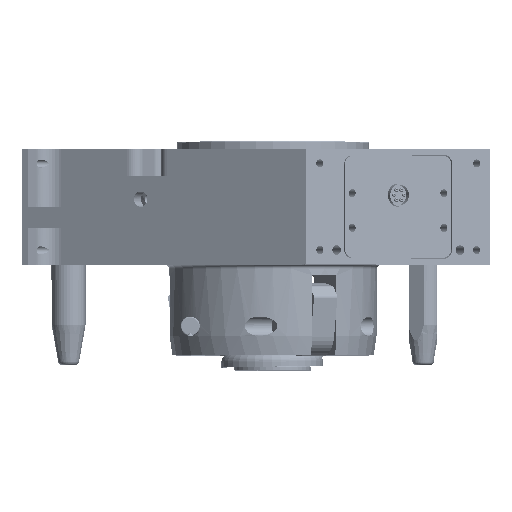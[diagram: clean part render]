
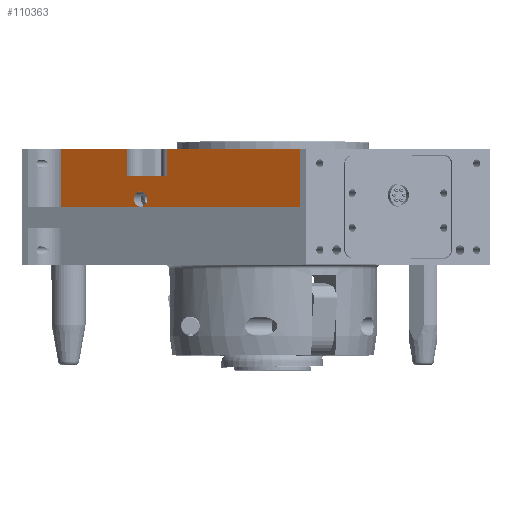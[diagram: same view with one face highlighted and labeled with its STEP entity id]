
A CAD part, top view. The second image highlights one B-rep face of the part: STEP entity #110363.
In plain terms, the highlighted planar face has unit normal (-0.5, 0, 0.866).
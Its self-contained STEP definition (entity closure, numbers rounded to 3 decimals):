
#1808 = VECTOR ( 'NONE', #139290, 1000. ) ;
#3265 = ORIENTED_EDGE ( 'NONE', *, *, #16347, .T. ) ;
#13840 = EDGE_CURVE ( 'NONE', #118554, #118554, #29705, .T. ) ;
#15144 = DIRECTION ( 'NONE',  ( 0.866, 0., 0.5 ) ) ;
#15334 = DIRECTION ( 'NONE',  ( -0.5, 0., 0.866 ) ) ;
#15360 = CARTESIAN_POINT ( 'NONE',  ( -68.583, 4., 69.79 ) ) ;
#16347 = EDGE_CURVE ( 'NONE', #42448, #16399, #39863, .T. ) ;
#16399 = VERTEX_POINT ( 'NONE', #35285 ) ;
#16968 = VECTOR ( 'NONE', #53417, 1000. ) ;
#18391 = AXIS2_PLACEMENT_3D ( 'NONE', #98614, #154858, #28509 ) ;
#18939 = LINE ( 'NONE', #75366, #85262 ) ;
#25705 = LINE ( 'NONE', #82087, #168639 ) ;
#26743 = LINE ( 'NONE', #83110, #1808 ) ;
#28509 = DIRECTION ( 'NONE',  ( -0.866, 0., -0.5 ) ) ;
#29705 = CIRCLE ( 'NONE', #132770, 4. ) ;
#35285 = CARTESIAN_POINT ( 'NONE',  ( -75.69, 30., 65.687 ) ) ;
#38543 = EDGE_CURVE ( 'NONE', #118554, #130224, #25705, .T. ) ;
#38886 = VECTOR ( 'NONE', #39610, 1000. ) ;
#39610 = DIRECTION ( 'NONE',  ( 0., 1., 0. ) ) ;
#39811 = CARTESIAN_POINT ( 'NONE',  ( -75.69, -20.966, 65.687 ) ) ;
#39813 = EDGE_CURVE ( 'NONE', #16399, #93696, #125126, .T. ) ;
#39863 = LINE ( 'NONE', #39811, #38886 ) ;
#41743 = VERTEX_POINT ( 'NONE', #58652 ) ;
#42405 = PLANE ( 'NONE',  #18391 ) ;
#42448 = VERTEX_POINT ( 'NONE', #118043 ) ;
#47846 = CARTESIAN_POINT ( 'NONE',  ( -68.583, 0., 69.79 ) ) ;
#48055 = DIRECTION ( 'NONE',  ( -0.866, 0., -0.5 ) ) ;
#53417 = DIRECTION ( 'NONE',  ( 0., 1., 0. ) ) ;
#53519 = CARTESIAN_POINT ( 'NONE',  ( -109.72, 0., 46.04 ) ) ;
#55121 = DIRECTION ( 'NONE',  ( -0.866, 0., -0.5 ) ) ;
#56098 = EDGE_CURVE ( 'NONE', #41743, #68146, #118079, .T. ) ;
#56848 = EDGE_CURVE ( 'NONE', #73368, #41743, #26743, .T. ) ;
#58652 = CARTESIAN_POINT ( 'NONE',  ( 14.988, 30., 118.04 ) ) ;
#59836 = CARTESIAN_POINT ( 'NONE',  ( -54.905, 30., 77.687 ) ) ;
#60950 = LINE ( 'NONE', #117127, #154405 ) ;
#68146 = VERTEX_POINT ( 'NONE', #59836 ) ;
#73368 = VERTEX_POINT ( 'NONE', #171118 ) ;
#75366 = CARTESIAN_POINT ( 'NONE',  ( -54.905, 16., 77.687 ) ) ;
#76443 = EDGE_CURVE ( 'NONE', #73368, #118554, #60950, .T. ) ;
#77601 = CARTESIAN_POINT ( 'NONE',  ( -54.905, 16., 77.687 ) ) ;
#82087 = CARTESIAN_POINT ( 'NONE',  ( 23.215, 0., 122.79 ) ) ;
#83110 = CARTESIAN_POINT ( 'NONE',  ( 14.988, 30., 118.04 ) ) ;
#85262 = VECTOR ( 'NONE', #131532, 1000. ) ;
#89869 = EDGE_CURVE ( 'NONE', #98868, #68146, #123392, .T. ) ;
#93234 = ORIENTED_EDGE ( 'NONE', *, *, #168363, .F. ) ;
#93696 = VERTEX_POINT ( 'NONE', #176793 ) ;
#96187 = EDGE_LOOP ( 'NONE', ( #159618, #160544, #160999, #163494, #164007, #166674, #93234, #3265, #167210, #168090 ) ) ;
#98614 = CARTESIAN_POINT ( 'NONE',  ( 23.215, 0., 122.79 ) ) ;
#98868 = VERTEX_POINT ( 'NONE', #77601 ) ;
#109711 = DIRECTION ( 'NONE',  ( 0., -1., 0. ) ) ;
#110363 = ADVANCED_FACE ( 'NONE', ( #168780 ), #42405, .F. ) ;
#112331 = VECTOR ( 'NONE', #55121, 1000. ) ;
#116777 = VECTOR ( 'NONE', #48055, 1000. ) ;
#117127 = CARTESIAN_POINT ( 'NONE',  ( 23.215, 0., 122.79 ) ) ;
#118043 = CARTESIAN_POINT ( 'NONE',  ( -75.69, 16., 65.687 ) ) ;
#118079 = LINE ( 'NONE', #174468, #116777 ) ;
#118554 = VERTEX_POINT ( 'NONE', #47846 ) ;
#123392 = LINE ( 'NONE', #179804, #16968 ) ;
#123860 = VECTOR ( 'NONE', #109711, 1000. ) ;
#125126 = LINE ( 'NONE', #181518, #112331 ) ;
#130224 = VERTEX_POINT ( 'NONE', #179608 ) ;
#131532 = DIRECTION ( 'NONE',  ( 0.866, 0., 0.5 ) ) ;
#132770 = AXIS2_PLACEMENT_3D ( 'NONE', #15360, #15334, #15144 ) ;
#138278 = DIRECTION ( 'NONE',  ( -0.866, 0., -0.5 ) ) ;
#139290 = DIRECTION ( 'NONE',  ( 0., 1., 0. ) ) ;
#154405 = VECTOR ( 'NONE', #173487, 1000. ) ;
#154858 = DIRECTION ( 'NONE',  ( 0.5, 0., -0.866 ) ) ;
#159618 = ORIENTED_EDGE ( 'NONE', *, *, #38543, .F. ) ;
#160544 = ORIENTED_EDGE ( 'NONE', *, *, #13840, .F. ) ;
#160999 = ORIENTED_EDGE ( 'NONE', *, *, #76443, .F. ) ;
#163494 = ORIENTED_EDGE ( 'NONE', *, *, #56848, .T. ) ;
#164007 = ORIENTED_EDGE ( 'NONE', *, *, #56098, .T. ) ;
#166674 = ORIENTED_EDGE ( 'NONE', *, *, #89869, .F. ) ;
#167210 = ORIENTED_EDGE ( 'NONE', *, *, #39813, .T. ) ;
#168090 = ORIENTED_EDGE ( 'NONE', *, *, #177520, .T. ) ;
#168363 = EDGE_CURVE ( 'NONE', #42448, #98868, #18939, .T. ) ;
#168639 = VECTOR ( 'NONE', #138278, 1000. ) ;
#168780 = FACE_OUTER_BOUND ( 'NONE', #96187, .T. ) ;
#171118 = CARTESIAN_POINT ( 'NONE',  ( 14.988, 0., 118.04 ) ) ;
#173487 = DIRECTION ( 'NONE',  ( -0.866, 0., -0.5 ) ) ;
#174468 = CARTESIAN_POINT ( 'NONE',  ( 23.215, 30., 122.79 ) ) ;
#176793 = CARTESIAN_POINT ( 'NONE',  ( -109.72, 30., 46.04 ) ) ;
#177520 = EDGE_CURVE ( 'NONE', #93696, #130224, #179911, .T. ) ;
#179608 = CARTESIAN_POINT ( 'NONE',  ( -109.72, 0., 46.04 ) ) ;
#179804 = CARTESIAN_POINT ( 'NONE',  ( -54.905, -20.966, 77.687 ) ) ;
#179911 = LINE ( 'NONE', #53519, #123860 ) ;
#181518 = CARTESIAN_POINT ( 'NONE',  ( 23.215, 30., 122.79 ) ) ;
